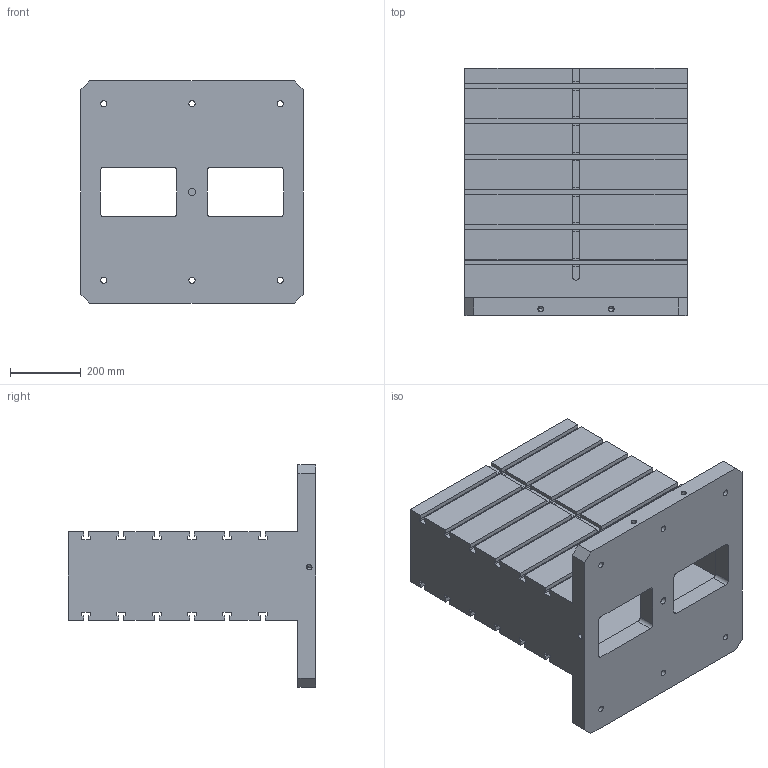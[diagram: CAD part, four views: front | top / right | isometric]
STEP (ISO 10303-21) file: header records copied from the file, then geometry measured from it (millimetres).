
FILE_DESCRIPTION((''),'2;1');
FILE_NAME('FG_WH_TOMB_RCTSLNP004','2026-05-20T12:03:42',('Admin'),(''),'CREO PARAMETRIC BY PTC INC, 2025010','CREO PARAMETRIC BY PTC INC, 2025010','');
FILE_SCHEMA(('CONFIG_CONTROL_DESIGN'));
Length unit declared in the file: millimetre
Products named in the file (1): FG_WH_TOMB_RCTSLNP004
Bounding box: 630 x 700 x 630 mm (x, y, z)
Volume: 61513292.2 mm3; surface area: 3572242.7 mm2
Topology: 1 solids, 5 shells, 284 faces, 806 edges, 535 vertices
Faces by surface type: plane 210, cylinder 68, cone 6
Entity records: 9207 total; most frequent: CARTESIAN_POINT 1620, ORIENTED_EDGE 1584, DIRECTION 1514, EDGE_CURVE 800, VECTOR 656, LINE 656, VERTEX_POINT 535, AXIS2_PLACEMENT_3D 429
